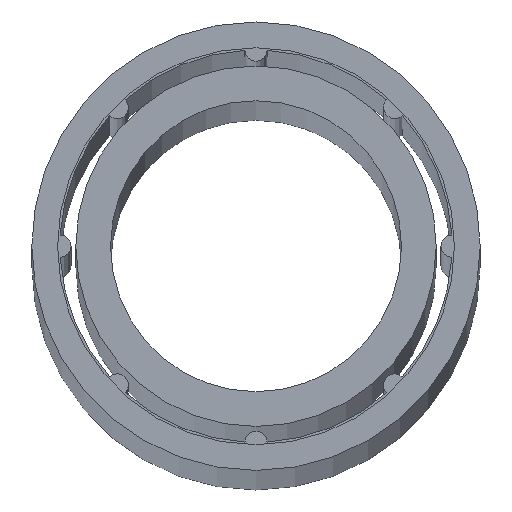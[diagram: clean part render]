
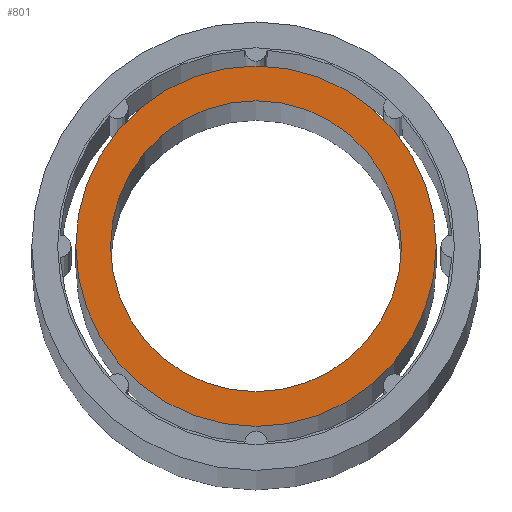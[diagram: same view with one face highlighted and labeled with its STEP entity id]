
A CAD part, top view. The second image highlights one B-rep face of the part: STEP entity #801.
In plain terms, the highlighted planar face has unit normal (0, 0, 1).
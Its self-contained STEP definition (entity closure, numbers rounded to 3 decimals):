
#20 = AXIS2_PLACEMENT_3D ( 'NONE', #331, #332, #333 ) ;
#23 = CIRCLE ( 'NONE', #20, 12.975 ) ;
#30 = AXIS2_PLACEMENT_3D ( 'NONE', #275, #282, #283 ) ;
#78 = CARTESIAN_POINT ( 'NONE',  ( 0., 0., 1000. ) ) ;
#79 = DIRECTION ( 'NONE',  ( 0., 0., -1. ) ) ;
#80 = DIRECTION ( 'NONE',  ( -1., 0., 0. ) ) ;
#81 = CARTESIAN_POINT ( 'NONE',  ( 0., 0., 1000. ) ) ;
#82 = DIRECTION ( 'NONE',  ( 0., 0., -1. ) ) ;
#83 = DIRECTION ( 'NONE',  ( -1., 0., 0. ) ) ;
#271 = FACE_BOUND ( 'NONE', #465, .T. ) ;
#275 = CARTESIAN_POINT ( 'NONE',  ( 0., 0., 1000. ) ) ;
#279 = FACE_OUTER_BOUND ( 'NONE', #450, .T. ) ;
#280 = PLANE ( 'NONE',  #30 ) ;
#282 = DIRECTION ( 'NONE',  ( 0., 0., -1. ) ) ;
#283 = DIRECTION ( 'NONE',  ( -1., 0., 0. ) ) ;
#331 = CARTESIAN_POINT ( 'NONE',  ( 0., 0., 1000. ) ) ;
#332 = DIRECTION ( 'NONE',  ( 0., 0., -1. ) ) ;
#333 = DIRECTION ( 'NONE',  ( -1., 0., 0. ) ) ;
#341 = VERTEX_POINT ( 'NONE', #443 ) ;
#343 = VERTEX_POINT ( 'NONE', #483 ) ;
#381 = VERTEX_POINT ( 'NONE', #622 ) ;
#382 = VERTEX_POINT ( 'NONE', #623 ) ;
#427 = ORIENTED_EDGE ( 'NONE', *, *, #667, .F. ) ;
#428 = ORIENTED_EDGE ( 'NONE', *, *, #663, .F. ) ;
#429 = ORIENTED_EDGE ( 'NONE', *, *, #811, .T. ) ;
#430 = ORIENTED_EDGE ( 'NONE', *, *, #668, .T. ) ;
#443 = CARTESIAN_POINT ( 'NONE',  ( -12.975, 0., 1000. ) ) ;
#450 = EDGE_LOOP ( 'NONE', ( #427, #428 ) ) ;
#465 = EDGE_LOOP ( 'NONE', ( #429, #430 ) ) ;
#483 = CARTESIAN_POINT ( 'NONE',  ( 12.975, 0., 1000. ) ) ;
#622 = CARTESIAN_POINT ( 'NONE',  ( -16.075, 0., 1000. ) ) ;
#623 = CARTESIAN_POINT ( 'NONE',  ( 16.075, 0., 1000. ) ) ;
#648 = CARTESIAN_POINT ( 'NONE',  ( 0., 0., 1000. ) ) ;
#649 = DIRECTION ( 'NONE',  ( 0., 0., -1. ) ) ;
#650 = DIRECTION ( 'NONE',  ( -1., 0., 0. ) ) ;
#663 = EDGE_CURVE ( 'NONE', #381, #382, #776, .T. ) ;
#667 = EDGE_CURVE ( 'NONE', #382, #381, #774, .T. ) ;
#668 = EDGE_CURVE ( 'NONE', #341, #343, #765, .T. ) ;
#765 = CIRCLE ( 'NONE', #768, 12.975 ) ;
#767 = AXIS2_PLACEMENT_3D ( 'NONE', #78, #79, #80 ) ;
#768 = AXIS2_PLACEMENT_3D ( 'NONE', #81, #82, #83 ) ;
#774 = CIRCLE ( 'NONE', #767, 16.075 ) ;
#776 = CIRCLE ( 'NONE', #777, 16.075 ) ;
#777 = AXIS2_PLACEMENT_3D ( 'NONE', #648, #649, #650 ) ;
#801 = ADVANCED_FACE ( 'NONE', ( #279, #271 ), #280, .F. ) ;
#811 = EDGE_CURVE ( 'NONE', #343, #341, #23, .T. ) ;
